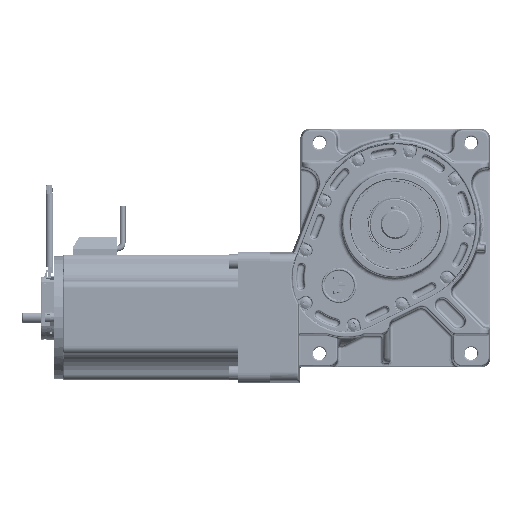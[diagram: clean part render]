
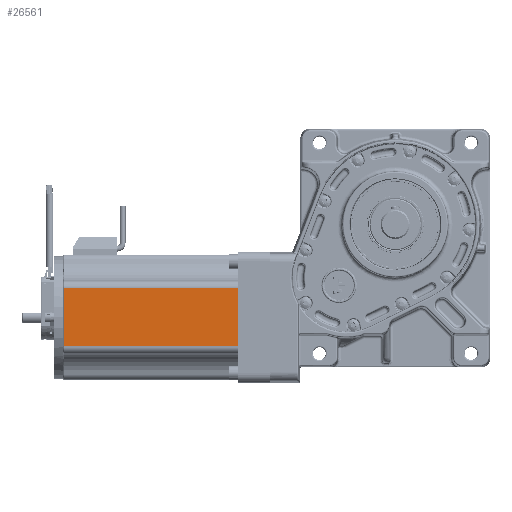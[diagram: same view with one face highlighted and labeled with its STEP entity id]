
A CAD part, top view. The second image highlights one B-rep face of the part: STEP entity #26561.
In plain terms, the highlighted planar face has unit normal (0, 0, 1).
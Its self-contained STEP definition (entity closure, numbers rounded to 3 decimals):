
#2710 = FACE_OUTER_BOUND ( 'NONE', #53404, .T. ) ;
#3990 = VECTOR ( 'NONE', #63389, 1000. ) ;
#26561 = ADVANCED_FACE ( 'NONE', ( #2710 ), #238247, .F. ) ;
#32530 = VECTOR ( 'NONE', #251187, 1000. ) ;
#37299 = EDGE_CURVE ( 'NONE', #364614, #49818, #184338, .T. ) ;
#38373 = CARTESIAN_POINT ( 'NONE',  ( -174.219, -48.129, 80.402 ) ) ;
#49818 = VERTEX_POINT ( 'NONE', #340245 ) ;
#53404 = EDGE_LOOP ( 'NONE', ( #132047, #85396, #412009, #56148 ) ) ;
#56148 = ORIENTED_EDGE ( 'NONE', *, *, #251356, .T. ) ;
#58295 = DIRECTION ( 'NONE',  ( 0., -1., 0. ) ) ;
#63389 = DIRECTION ( 'NONE',  ( -1., 0., 0. ) ) ;
#85396 = ORIENTED_EDGE ( 'NONE', *, *, #259659, .F. ) ;
#100491 = DIRECTION ( 'NONE',  ( 1., 0., 0. ) ) ;
#107420 = CARTESIAN_POINT ( 'NONE',  ( -174.219, -71.091, 80.402 ) ) ;
#132047 = ORIENTED_EDGE ( 'NONE', *, *, #419432, .T. ) ;
#149822 = VECTOR ( 'NONE', #100491, 1000. ) ;
#156977 = CARTESIAN_POINT ( 'NONE',  ( -305.719, -48.129, 80.402 ) ) ;
#160326 = VECTOR ( 'NONE', #58295, 1000. ) ;
#163319 = AXIS2_PLACEMENT_3D ( 'NONE', #107420, #236097, #369020 ) ;
#184338 = LINE ( 'NONE', #421357, #3990 ) ;
#203505 = CARTESIAN_POINT ( 'NONE',  ( -305.719, -48.129, 80.402 ) ) ;
#236097 = DIRECTION ( 'NONE',  ( 0., 0., -1. ) ) ;
#238247 = PLANE ( 'NONE',  #163319 ) ;
#251187 = DIRECTION ( 'NONE',  ( 0., -1., 0. ) ) ;
#251356 = EDGE_CURVE ( 'NONE', #49818, #268372, #285624, .T. ) ;
#253265 = CARTESIAN_POINT ( 'NONE',  ( -186.719, -71.091, 80.402 ) ) ;
#257494 = LINE ( 'NONE', #253265, #32530 ) ;
#259659 = EDGE_CURVE ( 'NONE', #364614, #317278, #257494, .T. ) ;
#268372 = VERTEX_POINT ( 'NONE', #203505 ) ;
#285624 = LINE ( 'NONE', #156977, #160326 ) ;
#307177 = CARTESIAN_POINT ( 'NONE',  ( -186.719, -8.053, 80.402 ) ) ;
#317278 = VERTEX_POINT ( 'NONE', #357072 ) ;
#332054 = LINE ( 'NONE', #38373, #149822 ) ;
#340245 = CARTESIAN_POINT ( 'NONE',  ( -305.719, -8.053, 80.402 ) ) ;
#357072 = CARTESIAN_POINT ( 'NONE',  ( -186.719, -48.129, 80.402 ) ) ;
#364614 = VERTEX_POINT ( 'NONE', #307177 ) ;
#369020 = DIRECTION ( 'NONE',  ( 0., 1., 0. ) ) ;
#412009 = ORIENTED_EDGE ( 'NONE', *, *, #37299, .T. ) ;
#419432 = EDGE_CURVE ( 'NONE', #268372, #317278, #332054, .T. ) ;
#421357 = CARTESIAN_POINT ( 'NONE',  ( -174.219, -8.053, 80.402 ) ) ;
